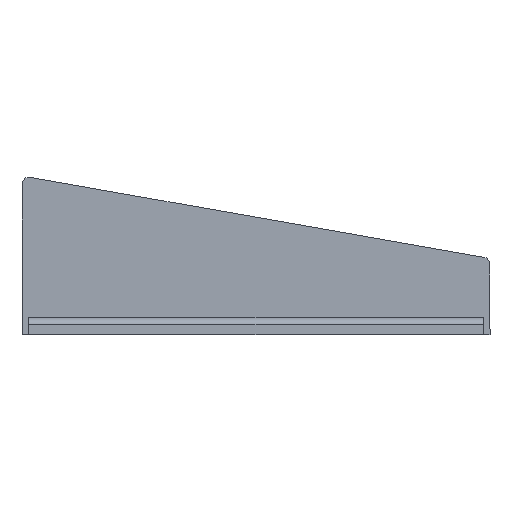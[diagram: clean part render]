
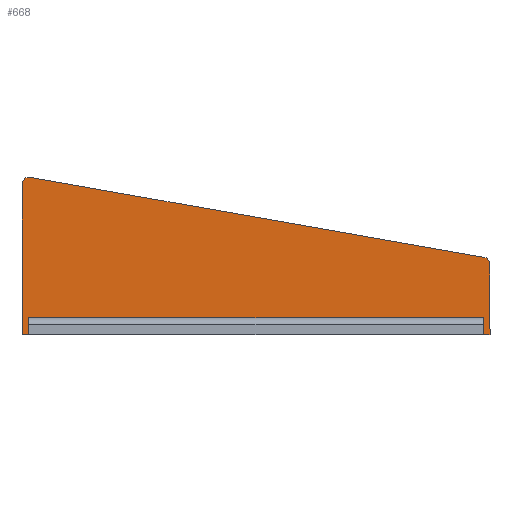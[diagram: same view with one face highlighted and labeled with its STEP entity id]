
A CAD part, left-side view. The second image highlights one B-rep face of the part: STEP entity #668.
In plain terms, the highlighted planar face has unit normal (-1, 0, 0).
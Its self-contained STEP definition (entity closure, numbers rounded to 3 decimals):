
#51=FACE_OUTER_BOUND('',#90,.T.);
#90=EDGE_LOOP('',(#550,#551,#552,#553,#554,#555,#556,#557,#558,#559,#560,
#561,#562,#563));
#104=CIRCLE('',#697,2.);
#111=CIRCLE('',#727,2.);
#124=LINE('',#943,#206);
#128=LINE('',#952,#210);
#130=LINE('',#956,#212);
#132=LINE('',#960,#214);
#137=LINE('',#975,#219);
#179=LINE('',#1068,#261);
#180=LINE('',#1071,#262);
#181=LINE('',#1073,#263);
#182=LINE('',#1075,#264);
#183=LINE('',#1079,#265);
#184=LINE('',#1080,#266);
#185=LINE('',#1081,#267);
#206=VECTOR('',#759,10.);
#210=VECTOR('',#769,10.);
#212=VECTOR('',#773,10.);
#214=VECTOR('',#777,10.);
#219=VECTOR('',#790,10.);
#261=VECTOR('',#874,10.);
#262=VECTOR('',#877,10.);
#263=VECTOR('',#878,10.);
#264=VECTOR('',#879,10.);
#265=VECTOR('',#882,10.);
#266=VECTOR('',#883,10.);
#267=VECTOR('',#884,10.);
#289=VERTEX_POINT('',#940);
#290=VERTEX_POINT('',#942);
#291=VERTEX_POINT('',#946);
#292=VERTEX_POINT('',#950);
#293=VERTEX_POINT('',#954);
#294=VERTEX_POINT('',#958);
#299=VERTEX_POINT('',#972);
#300=VERTEX_POINT('',#974);
#330=VERTEX_POINT('',#1065);
#331=VERTEX_POINT('',#1070);
#332=VERTEX_POINT('',#1072);
#333=VERTEX_POINT('',#1074);
#334=VERTEX_POINT('',#1076);
#335=VERTEX_POINT('',#1078);
#351=EDGE_CURVE('',#289,#290,#124,.T.);
#354=EDGE_CURVE('',#291,#289,#104,.T.);
#356=EDGE_CURVE('',#292,#291,#128,.T.);
#358=EDGE_CURVE('',#293,#292,#130,.T.);
#360=EDGE_CURVE('',#294,#293,#132,.T.);
#367=EDGE_CURVE('',#300,#299,#137,.T.);
#413=EDGE_CURVE('',#330,#300,#179,.T.);
#414=EDGE_CURVE('',#331,#299,#180,.T.);
#415=EDGE_CURVE('',#332,#331,#181,.T.);
#416=EDGE_CURVE('',#333,#332,#182,.T.);
#417=EDGE_CURVE('',#334,#333,#111,.T.);
#418=EDGE_CURVE('',#335,#334,#183,.T.);
#419=EDGE_CURVE('',#290,#335,#184,.T.);
#420=EDGE_CURVE('',#294,#330,#185,.T.);
#550=ORIENTED_EDGE('',*,*,#367,.T.);
#551=ORIENTED_EDGE('',*,*,#414,.F.);
#552=ORIENTED_EDGE('',*,*,#415,.F.);
#553=ORIENTED_EDGE('',*,*,#416,.F.);
#554=ORIENTED_EDGE('',*,*,#417,.F.);
#555=ORIENTED_EDGE('',*,*,#418,.F.);
#556=ORIENTED_EDGE('',*,*,#419,.F.);
#557=ORIENTED_EDGE('',*,*,#351,.F.);
#558=ORIENTED_EDGE('',*,*,#354,.F.);
#559=ORIENTED_EDGE('',*,*,#356,.F.);
#560=ORIENTED_EDGE('',*,*,#358,.F.);
#561=ORIENTED_EDGE('',*,*,#360,.F.);
#562=ORIENTED_EDGE('',*,*,#420,.T.);
#563=ORIENTED_EDGE('',*,*,#413,.T.);
#634=PLANE('',#726);
#668=ADVANCED_FACE('',(#51),#634,.T.);
#697=AXIS2_PLACEMENT_3D('',#948,#764,#765);
#726=AXIS2_PLACEMENT_3D('',#1069,#875,#876);
#727=AXIS2_PLACEMENT_3D('',#1077,#880,#881);
#759=DIRECTION('',(0.,-0.174,0.985));
#764=DIRECTION('center_axis',(1.,0.,0.));
#765=DIRECTION('ref_axis',(0.,-0.414,0.91));
#769=DIRECTION('',(0.,-1.,0.));
#773=DIRECTION('',(0.,0.,1.));
#777=DIRECTION('',(0.,1.,0.));
#790=DIRECTION('',(0.,0.,-1.));
#874=DIRECTION('',(0.,-1.,0.));
#875=DIRECTION('center_axis',(-1.,0.,0.));
#876=DIRECTION('ref_axis',(0.,-1.,0.));
#877=DIRECTION('',(0.,1.,0.));
#878=DIRECTION('',(0.,0.,-1.));
#879=DIRECTION('',(0.,-1.,0.));
#880=DIRECTION('center_axis',(1.,0.,0.));
#881=DIRECTION('ref_axis',(0.,-0.968,-0.25));
#882=DIRECTION('',(0.,0.174,-0.985));
#883=DIRECTION('',(0.,-0.985,-0.174));
#884=DIRECTION('',(0.,0.,1.));
#940=CARTESIAN_POINT('',(-87.,74.171,50.861));
#942=CARTESIAN_POINT('',(-87.,74.16,50.924));
#943=CARTESIAN_POINT('',(-87.,74.171,50.861));
#946=CARTESIAN_POINT('',(-87.,76.936,48.541));
#948=CARTESIAN_POINT('Origin',(-87.,75.,49.041));
#950=CARTESIAN_POINT('',(-87.,77.,48.541));
#952=CARTESIAN_POINT('',(-87.,80.477,48.541));
#954=CARTESIAN_POINT('',(-87.,77.,5.));
#956=CARTESIAN_POINT('',(-87.,77.,4.5));
#958=CARTESIAN_POINT('',(-87.,75.,5.));
#960=CARTESIAN_POINT('',(-87.,77.5,5.));
#972=CARTESIAN_POINT('',(-87.,-57.797,5.));
#974=CARTESIAN_POINT('',(-87.,-57.797,10.));
#975=CARTESIAN_POINT('',(-87.,-57.797,16.51));
#1065=CARTESIAN_POINT('',(-87.,75.,10.));
#1068=CARTESIAN_POINT('',(-87.,8.601,10.));
#1069=CARTESIAN_POINT('Origin',(-87.,8.601,28.021));
#1070=CARTESIAN_POINT('',(-87.,-59.797,5.));
#1071=CARTESIAN_POINT('',(-87.,77.5,5.));
#1072=CARTESIAN_POINT('',(-87.,-59.797,25.126));
#1073=CARTESIAN_POINT('',(-87.,-59.797,26.126));
#1074=CARTESIAN_POINT('',(-87.,-59.734,25.126));
#1075=CARTESIAN_POINT('',(-87.,-59.734,25.126));
#1076=CARTESIAN_POINT('',(-87.,-57.641,27.619));
#1077=CARTESIAN_POINT('Origin',(-87.,-57.797,25.626));
#1078=CARTESIAN_POINT('',(-87.,-57.652,27.682));
#1079=CARTESIAN_POINT('',(-87.,-58.256,31.106));
#1080=CARTESIAN_POINT('',(-87.,75.145,51.098));
#1081=CARTESIAN_POINT('',(-87.,75.,16.51));
